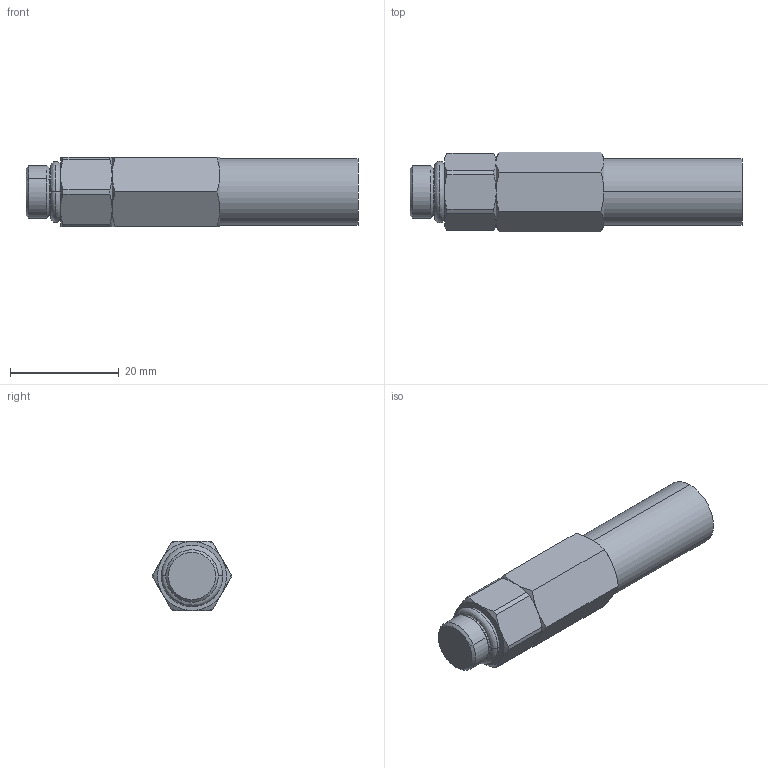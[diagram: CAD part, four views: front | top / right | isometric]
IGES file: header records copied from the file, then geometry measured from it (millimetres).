
Start section:  PTC IGES file: 563261-en-f.igs
Global section: file name: 563261-en-f.igs; native system: Creo Parametric by PTC Inc.; preprocessor: 2019030; author: qusrh3; organization: Unknown; date: 20191231.213314; units: inch
Bounding box: 61.09 x 14.66 x 12.7 mm (x, y, z)
Surface area: 3085.9 mm2 (no closed solid volume)
Topology: 0 solids, 0 shells, 60 faces, 252 edges, 252 vertices
Faces by surface type: revolution 44, bspline 16
